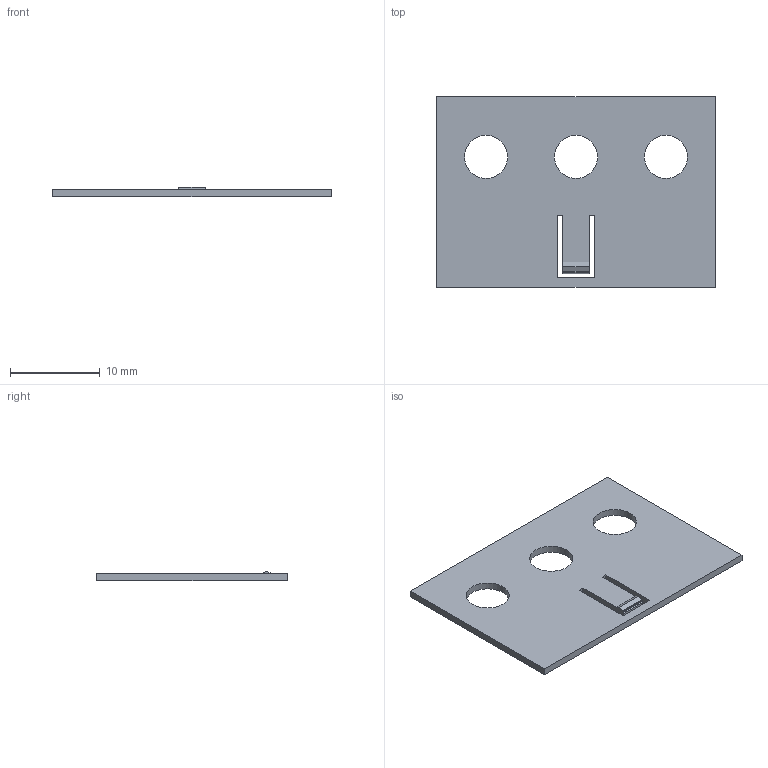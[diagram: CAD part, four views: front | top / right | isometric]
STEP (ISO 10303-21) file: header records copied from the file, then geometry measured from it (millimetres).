
FILE_DESCRIPTION(('Open CASCADE Model'),'2;1');
FILE_NAME('Open CASCADE Shape Model','2026-09-28T00:01:43',('Author'),( 'Open CASCADE'),'Open CASCADE STEP processor 7.8','Open CASCADE 7.8' ,'Unknown');
FILE_SCHEMA(('AUTOMOTIVE_DESIGN { 1 0 10303 214 1 1 1 1 }'));
Length unit declared in the file: millimetre
Products named in the file (1): Open CASCADE STEP translator 7.8 2
Bounding box: 31 x 21.2 x 1.05 mm (x, y, z)
Volume: 474.7 mm3; surface area: 1334.8 mm2
Topology: 1 solids, 1 shells, 23 faces, 63 edges, 42 vertices
Faces by surface type: plane 20, cylinder 3
Full cylindrical faces by diameter (mm): 4.8 x3
Entity records: 1586 total; most frequent: CARTESIAN_POINT 291, DIRECTION 237, LINE 177, VECTOR 177, ORIENTED_EDGE 126, PCURVE 126, DEFINITIONAL_REPRESENTATION 126, EDGE_CURVE 63
